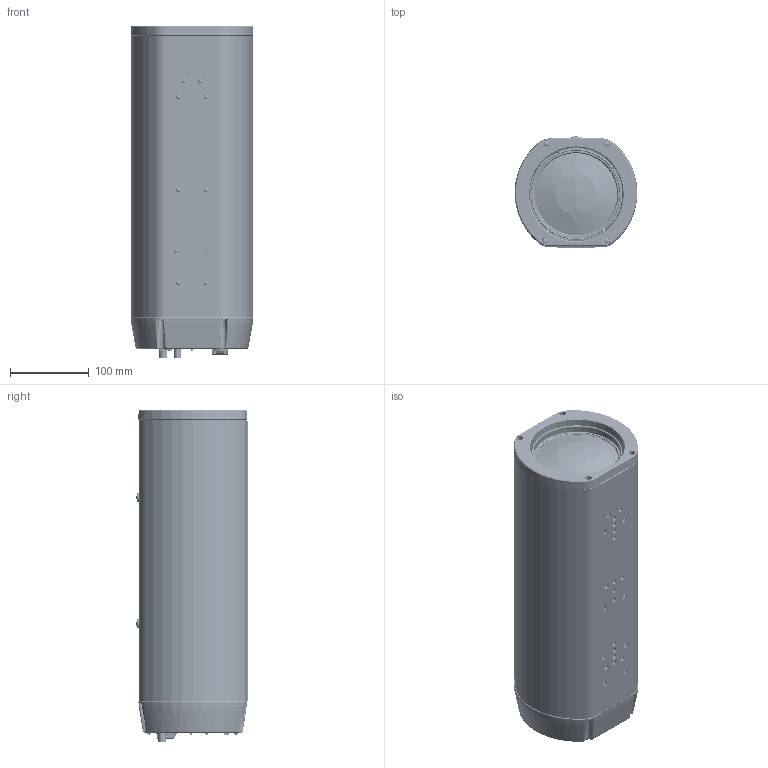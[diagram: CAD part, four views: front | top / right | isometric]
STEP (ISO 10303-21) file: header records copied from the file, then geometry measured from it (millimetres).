
FILE_DESCRIPTION(('CoCreate Modeling STEP Export'),'2;1');
FILE_NAME('KX88_outline_20190308.stp','2019-03-08T17:27:56',(''),(''),'CoCreate Modeling STEP processor for AP214 (Solid Model)','CoCreate Modeling 17.0 01-Apr-2010 (C) Parametric Technology GmbH','');
FILE_SCHEMA(('AUTOMOTIVE_DESIGN { 1 0 10303 214 1 1 1 1 }'));
Length unit declared in the file: millimetre
Products named in the file (23): SCREW_M4.1; LENS_BARREL; LGY2209-0300F.1; C-1-2834016-6-1; P2493-AAAA; SCREW_M3X5_NABE_1019.1; RJLCD-308TA_C68U1; PANEL_BACK; CABINET_BACK; COVER_CARD; SKHHAN; SKHHAN.3; MCV_1_5_2-G-3_81; DC1RS19JA7R550; SSGM640200; SLI-343P8G3F; SKHHAL; JW-S11RKK; SCREW_TRUSS_M2_5.2; CABINET_MAIN; COVER_FRONT; SX800
Assembly tree (42 placements, depth 4):
  SX800
    SCREW_TRUSS_M2_5.2  x8
    COVER_FRONT
    CABINET_MAIN
    SCREW_M4.1  x2
    CABINET_BACK
      SKHHAN.3  x7
        SKHHAN
      JW-S11RKK
      SKHHAL
      SLI-343P8G3F
      SSGM640200
      LGY2209-0300F.1  x2
      DC1RS19JA7R550
      MCV_1_5_2-G-3_81
      COVER_CARD
      CABINET_BACK
      SCREW_M3X5_NABE_1019.1  x6
      PANEL_BACK
      RJLCD-308TA_C68U1
      P2493-AAAA
      C-1-2834016-6-1
    LENS_BARREL
Bounding box: 156.02 x 141.52 x 421.4 mm (x, y, z)
Volume: 1019920.4 mm3; surface area: 574598.4 mm2
Topology: 40 solids, 44 shells, 8947 faces, 24357 edges, 15746 vertices
Faces by surface type: plane 5384, cylinder 2373, cone 475, torus 369, bspline 252, sphere 94
Entity records: 230644 total; most frequent: CARTESIAN_POINT 58774, ORIENTED_EDGE 35460, DIRECTION 29735, EDGE_CURVE 17722, VECTOR 12485, LINE 12485, VERTEX_POINT 11530, AXIS2_PLACEMENT_3D 8625
